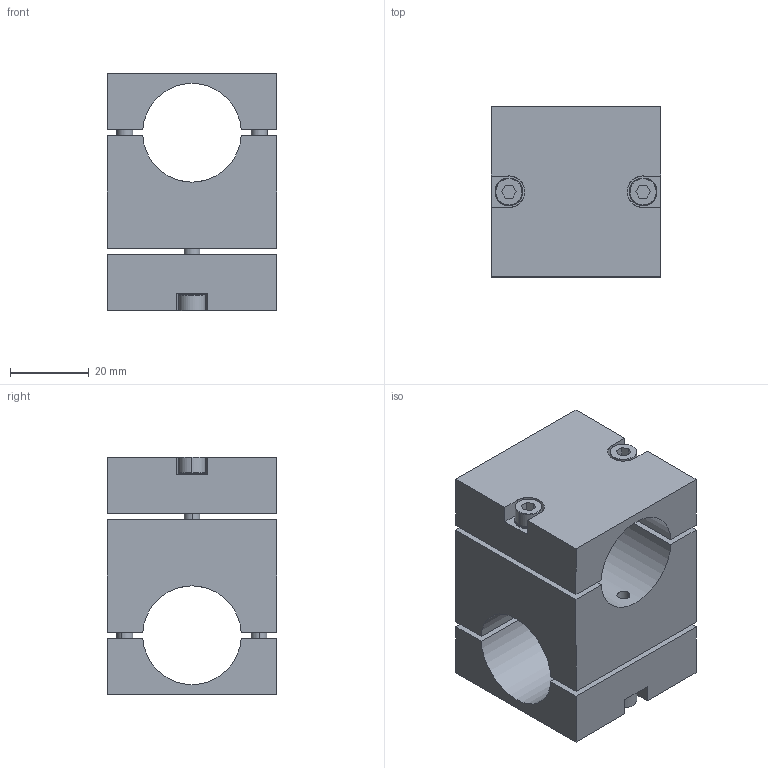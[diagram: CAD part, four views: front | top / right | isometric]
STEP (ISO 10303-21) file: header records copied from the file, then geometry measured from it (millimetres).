
FILE_DESCRIPTION (( 'STEP AP214' ), '1' );
FILE_NAME ('SMBT2-2525T.STEP', '2023-01-03T08:13:27', ( 'Windows User' ), ( 'P R C' ), 'SwSTEP 2.0', 'SolidWorks 2018', '' );
FILE_SCHEMA (( 'AUTOMOTIVE_DESIGN' ));
Length unit declared in the file: millimetre
Products named in the file (4): SMBT2-2525; PTS-M4; SMBT2-2525T; PTC-M4L18
Assembly tree (9 placements, depth 2):
  SMBT2-2525T
    SMBT2-2525
    PTC-M4L18  x4
    PTS-M4  x4
Bounding box: 43 x 43 x 60.1 mm (x, y, z)
Volume: 65532 mm3; surface area: 24525.5 mm2
Topology: 11 solids, 11 shells, 809 faces, 2328 edges, 1541 vertices
Faces by surface type: plane 714, cylinder 58, cone 37
Entity records: 8911 total; most frequent: CARTESIAN_POINT 1714, DIRECTION 1487, ORIENTED_EDGE 1452, EDGE_CURVE 726, AXIS2_PLACEMENT_3D 508, VERTEX_POINT 479, LINE 471, VECTOR 471
